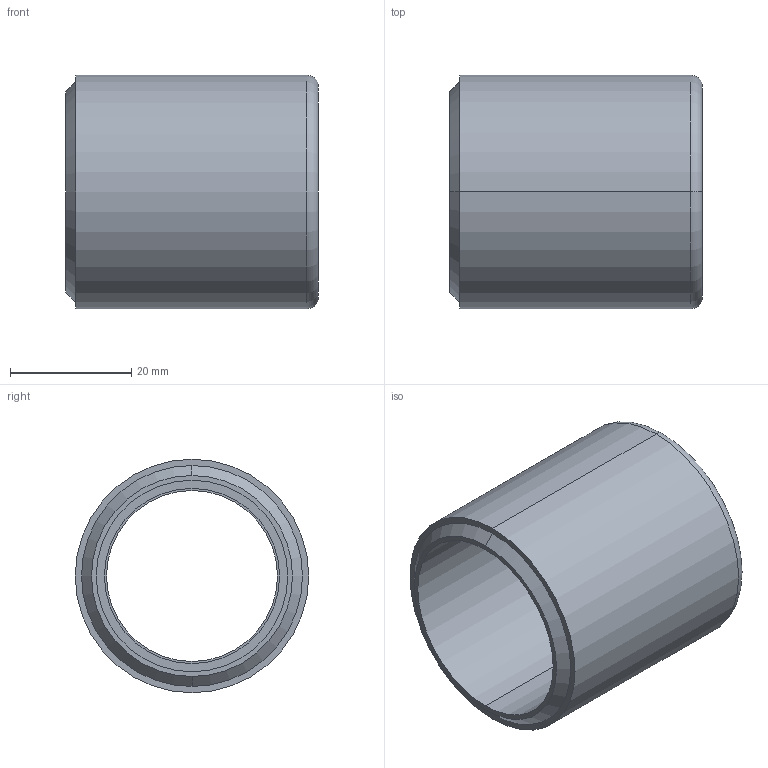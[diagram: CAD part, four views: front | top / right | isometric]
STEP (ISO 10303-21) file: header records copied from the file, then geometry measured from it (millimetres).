
FILE_DESCRIPTION (( 'STEP AP214' ), '1' );
FILE_NAME ('CR-INFV-06-07.STEP', '2020-12-10T16:58:16', ( '' ), ( '' ), 'SwSTEP 2.0', 'SolidWorks 2019', '' );
FILE_SCHEMA (( 'AUTOMOTIVE_DESIGN' ));
Length unit declared in the file: inch
Products named in the file (1): CR-INFV-06-07
Bounding box: 41.64 x 38.43 x 38.43 mm (x, y, z)
Volume: 17899.9 mm3; surface area: 9831.7 mm2
Topology: 1 solids, 1 shells, 20 faces, 40 edges, 26 vertices
Faces by surface type: cylinder 10, plane 6, cone 2, torus 2
Entity records: 840 total; most frequent: DIRECTION 110, CARTESIAN_POINT 87, ORIENTED_EDGE 80, AXIS2_PLACEMENT_3D 49, EDGE_CURVE 40, CIRCLE 28, EDGE_LOOP 26, VERTEX_POINT 26
